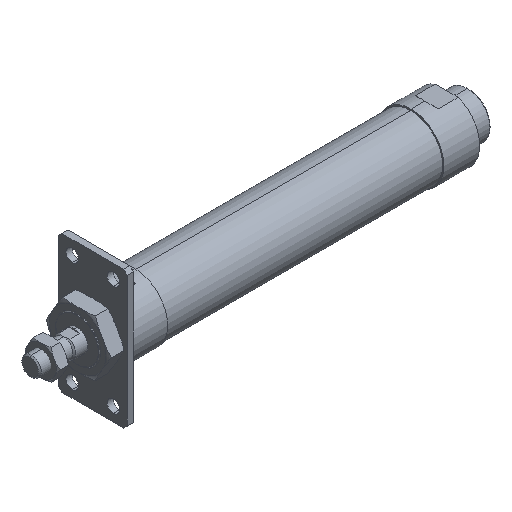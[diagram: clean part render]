
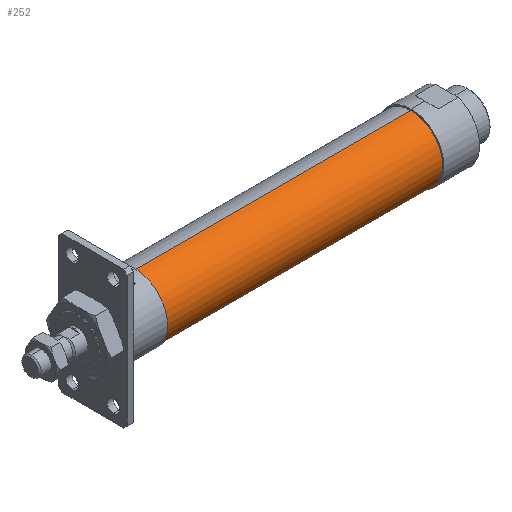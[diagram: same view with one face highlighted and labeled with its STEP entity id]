
A CAD part, isometric view. The second image highlights one B-rep face of the part: STEP entity #252.
In plain terms, the highlighted cylindrical face has radius 23 mm (diameter 46 mm), a partial arc.
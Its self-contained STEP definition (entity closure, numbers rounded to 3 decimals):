
#15 = LINE ( 'NONE', #2452, #2250 ) ;
#252 = ADVANCED_FACE ( 'NONE', ( #3777 ), #3961, .T. ) ;
#380 = VERTEX_POINT ( 'NONE', #2944 ) ;
#463 = DIRECTION ( 'NONE',  ( 0., 0., 1. ) ) ;
#543 = CARTESIAN_POINT ( 'NONE',  ( 76., 0., 23. ) ) ;
#638 = CARTESIAN_POINT ( 'NONE',  ( 76., 0., -23. ) ) ;
#695 = EDGE_CURVE ( 'NONE', #4216, #2994, #2643, .T. ) ;
#728 = AXIS2_PLACEMENT_3D ( 'NONE', #3188, #2015, #463 ) ;
#825 = AXIS2_PLACEMENT_3D ( 'NONE', #3673, #4187, #1172 ) ;
#1114 = DIRECTION ( 'NONE',  ( -1., 0., 0. ) ) ;
#1145 = CIRCLE ( 'NONE', #825, 23. ) ;
#1172 = DIRECTION ( 'NONE',  ( 0., 0., 1. ) ) ;
#1405 = VECTOR ( 'NONE', #2242, 1000. ) ;
#1785 = ORIENTED_EDGE ( 'NONE', *, *, #3375, .F. ) ;
#1804 = ORIENTED_EDGE ( 'NONE', *, *, #695, .F. ) ;
#1834 = VERTEX_POINT ( 'NONE', #2966 ) ;
#1949 = ORIENTED_EDGE ( 'NONE', *, *, #2572, .T. ) ;
#2015 = DIRECTION ( 'NONE',  ( -1., 0., 0. ) ) ;
#2078 = DIRECTION ( 'NONE',  ( 0., 0., 1. ) ) ;
#2242 = DIRECTION ( 'NONE',  ( -1., 0., 0. ) ) ;
#2250 = VECTOR ( 'NONE', #1114, 1000. ) ;
#2423 = CARTESIAN_POINT ( 'NONE',  ( 76., 0., 0. ) ) ;
#2452 = CARTESIAN_POINT ( 'NONE',  ( -1.784, 0., -23. ) ) ;
#2572 = EDGE_CURVE ( 'NONE', #1834, #380, #1145, .T. ) ;
#2643 = CIRCLE ( 'NONE', #3133, 23. ) ;
#2713 = LINE ( 'NONE', #4118, #1405 ) ;
#2773 = ORIENTED_EDGE ( 'NONE', *, *, #3276, .T. ) ;
#2806 = EDGE_LOOP ( 'NONE', ( #1785, #1949, #2773, #1804 ) ) ;
#2944 = CARTESIAN_POINT ( 'NONE',  ( 277., 0., 23. ) ) ;
#2966 = CARTESIAN_POINT ( 'NONE',  ( 277., 0., -23. ) ) ;
#2994 = VERTEX_POINT ( 'NONE', #543 ) ;
#3133 = AXIS2_PLACEMENT_3D ( 'NONE', #2423, #3610, #2078 ) ;
#3188 = CARTESIAN_POINT ( 'NONE',  ( -1.784, 0., 0. ) ) ;
#3276 = EDGE_CURVE ( 'NONE', #380, #2994, #2713, .T. ) ;
#3375 = EDGE_CURVE ( 'NONE', #1834, #4216, #15, .T. ) ;
#3610 = DIRECTION ( 'NONE',  ( -1., 0., 0. ) ) ;
#3673 = CARTESIAN_POINT ( 'NONE',  ( 277., 0., 0. ) ) ;
#3777 = FACE_OUTER_BOUND ( 'NONE', #2806, .T. ) ;
#3961 = CYLINDRICAL_SURFACE ( 'NONE', #728, 23. ) ;
#4118 = CARTESIAN_POINT ( 'NONE',  ( -1.784, 0., 23. ) ) ;
#4187 = DIRECTION ( 'NONE',  ( -1., 0., 0. ) ) ;
#4216 = VERTEX_POINT ( 'NONE', #638 ) ;
